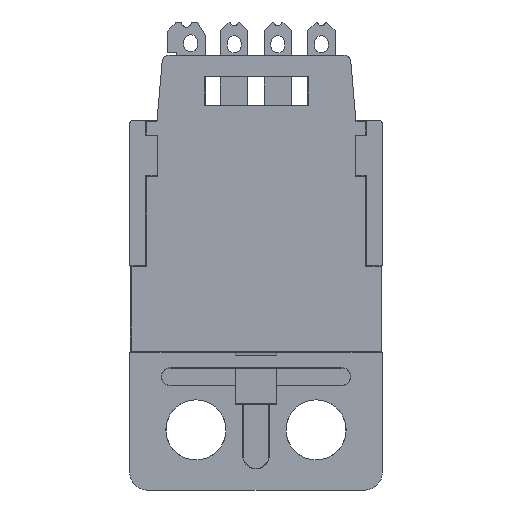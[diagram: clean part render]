
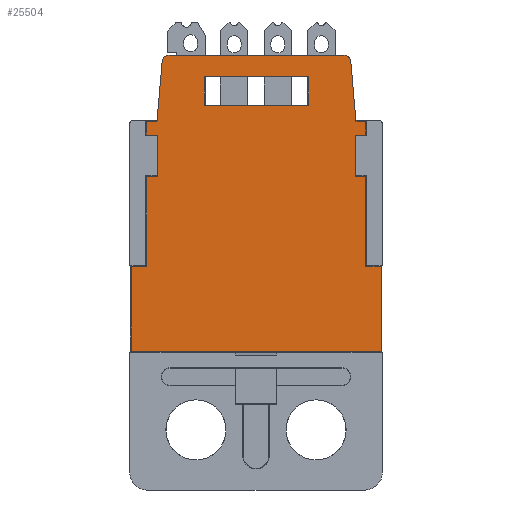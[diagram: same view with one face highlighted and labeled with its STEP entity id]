
A CAD part, front view. The second image highlights one B-rep face of the part: STEP entity #25504.
In plain terms, the highlighted planar face has unit normal (0, -1, 0).
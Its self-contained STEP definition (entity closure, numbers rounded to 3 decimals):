
#1346=FACE_BOUND('',#4163,.T.);
#1675=CIRCLE('',#26932,0.4);
#1676=CIRCLE('',#26933,0.4);
#2707=FACE_OUTER_BOUND('',#4162,.T.);
#4162=EDGE_LOOP('',(#20971,#20972,#20973,#20974,#20975,#20976,#20977,#20978,
#20979,#20980,#20981,#20982,#20983,#20984,#20985,#20986,#20987,#20988,#20989,
#20990,#20991,#20992));
#4163=EDGE_LOOP('',(#20993,#20994,#20995,#20996));
#6208=LINE('',#56299,#8870);
#6211=LINE('',#56305,#8873);
#6213=LINE('',#56310,#8875);
#6214=LINE('',#56312,#8876);
#6215=LINE('',#56314,#8877);
#6216=LINE('',#56316,#8878);
#6217=LINE('',#56318,#8879);
#6218=LINE('',#56320,#8880);
#6219=LINE('',#56324,#8881);
#6220=LINE('',#56328,#8882);
#6221=LINE('',#56330,#8883);
#6222=LINE('',#56332,#8884);
#6223=LINE('',#56334,#8885);
#6224=LINE('',#56336,#8886);
#6225=LINE('',#56338,#8887);
#6226=LINE('',#56340,#8888);
#6227=LINE('',#56341,#8889);
#6228=LINE('',#56343,#8890);
#6229=LINE('',#56345,#8891);
#6230=LINE('',#56346,#8892);
#6231=LINE('',#56349,#8893);
#6232=LINE('',#56351,#8894);
#6233=LINE('',#56353,#8895);
#6234=LINE('',#56354,#8896);
#8870=VECTOR('',#30916,14.564);
#8873=VECTOR('',#30921,4.94);
#8875=VECTOR('',#30925,0.605);
#8876=VECTOR('',#30926,2.37);
#8877=VECTOR('',#30927,0.605);
#8878=VECTOR('',#30928,0.81);
#8879=VECTOR('',#30929,0.555);
#8880=VECTOR('',#30930,3.498);
#8881=VECTOR('',#30933,10.193);
#8882=VECTOR('',#30936,3.498);
#8883=VECTOR('',#30937,0.61);
#8884=VECTOR('',#30938,0.795);
#8885=VECTOR('',#30939,0.66);
#8886=VECTOR('',#30940,2.425);
#8887=VECTOR('',#30941,0.65);
#8888=VECTOR('',#30942,5.23);
#8889=VECTOR('',#30943,0.882);
#8890=VECTOR('',#30944,4.94);
#8891=VECTOR('',#30945,0.927);
#8892=VECTOR('',#30946,5.27);
#8893=VECTOR('',#30947,1.65);
#8894=VECTOR('',#30948,6.1);
#8895=VECTOR('',#30949,1.65);
#8896=VECTOR('',#30950,6.1);
#11603=VERTEX_POINT('',#56292);
#11605=VERTEX_POINT('',#56297);
#11607=VERTEX_POINT('',#56304);
#11608=VERTEX_POINT('',#56308);
#11609=VERTEX_POINT('',#56309);
#11610=VERTEX_POINT('',#56311);
#11611=VERTEX_POINT('',#56313);
#11612=VERTEX_POINT('',#56315);
#11613=VERTEX_POINT('',#56317);
#11614=VERTEX_POINT('',#56319);
#11615=VERTEX_POINT('',#56321);
#11616=VERTEX_POINT('',#56323);
#11617=VERTEX_POINT('',#56325);
#11618=VERTEX_POINT('',#56327);
#11619=VERTEX_POINT('',#56329);
#11620=VERTEX_POINT('',#56331);
#11621=VERTEX_POINT('',#56333);
#11622=VERTEX_POINT('',#56335);
#11623=VERTEX_POINT('',#56337);
#11624=VERTEX_POINT('',#56339);
#11625=VERTEX_POINT('',#56342);
#11626=VERTEX_POINT('',#56344);
#11627=VERTEX_POINT('',#56347);
#11628=VERTEX_POINT('',#56348);
#11629=VERTEX_POINT('',#56350);
#11630=VERTEX_POINT('',#56352);
#14884=EDGE_CURVE('',#11605,#11603,#6208,.T.);
#14887=EDGE_CURVE('',#11607,#11603,#6211,.T.);
#14889=EDGE_CURVE('',#11608,#11609,#6213,.T.);
#14890=EDGE_CURVE('',#11609,#11610,#6214,.T.);
#14891=EDGE_CURVE('',#11611,#11610,#6215,.T.);
#14892=EDGE_CURVE('',#11611,#11612,#6216,.T.);
#14893=EDGE_CURVE('',#11612,#11613,#6217,.T.);
#14894=EDGE_CURVE('',#11613,#11614,#6218,.T.);
#14895=EDGE_CURVE('',#11614,#11615,#1675,.T.);
#14896=EDGE_CURVE('',#11615,#11616,#6219,.T.);
#14897=EDGE_CURVE('',#11616,#11617,#1676,.T.);
#14898=EDGE_CURVE('',#11617,#11618,#6220,.T.);
#14899=EDGE_CURVE('',#11618,#11619,#6221,.T.);
#14900=EDGE_CURVE('',#11620,#11619,#6222,.T.);
#14901=EDGE_CURVE('',#11621,#11620,#6223,.T.);
#14902=EDGE_CURVE('',#11621,#11622,#6224,.T.);
#14903=EDGE_CURVE('',#11622,#11623,#6225,.T.);
#14904=EDGE_CURVE('',#11623,#11624,#6226,.T.);
#14905=EDGE_CURVE('',#11624,#11607,#6227,.T.);
#14906=EDGE_CURVE('',#11605,#11625,#6228,.T.);
#14907=EDGE_CURVE('',#11625,#11626,#6229,.T.);
#14908=EDGE_CURVE('',#11626,#11608,#6230,.T.);
#14909=EDGE_CURVE('',#11627,#11628,#6231,.T.);
#14910=EDGE_CURVE('',#11628,#11629,#6232,.T.);
#14911=EDGE_CURVE('',#11629,#11630,#6233,.T.);
#14912=EDGE_CURVE('',#11630,#11627,#6234,.T.);
#20971=ORIENTED_EDGE('',*,*,#14889,.T.);
#20972=ORIENTED_EDGE('',*,*,#14890,.T.);
#20973=ORIENTED_EDGE('',*,*,#14891,.F.);
#20974=ORIENTED_EDGE('',*,*,#14892,.T.);
#20975=ORIENTED_EDGE('',*,*,#14893,.T.);
#20976=ORIENTED_EDGE('',*,*,#14894,.T.);
#20977=ORIENTED_EDGE('',*,*,#14895,.T.);
#20978=ORIENTED_EDGE('',*,*,#14896,.T.);
#20979=ORIENTED_EDGE('',*,*,#14897,.T.);
#20980=ORIENTED_EDGE('',*,*,#14898,.T.);
#20981=ORIENTED_EDGE('',*,*,#14899,.T.);
#20982=ORIENTED_EDGE('',*,*,#14900,.F.);
#20983=ORIENTED_EDGE('',*,*,#14901,.F.);
#20984=ORIENTED_EDGE('',*,*,#14902,.T.);
#20985=ORIENTED_EDGE('',*,*,#14903,.T.);
#20986=ORIENTED_EDGE('',*,*,#14904,.T.);
#20987=ORIENTED_EDGE('',*,*,#14905,.T.);
#20988=ORIENTED_EDGE('',*,*,#14887,.T.);
#20989=ORIENTED_EDGE('',*,*,#14884,.F.);
#20990=ORIENTED_EDGE('',*,*,#14906,.T.);
#20991=ORIENTED_EDGE('',*,*,#14907,.T.);
#20992=ORIENTED_EDGE('',*,*,#14908,.T.);
#20993=ORIENTED_EDGE('',*,*,#14909,.T.);
#20994=ORIENTED_EDGE('',*,*,#14910,.T.);
#20995=ORIENTED_EDGE('',*,*,#14911,.T.);
#20996=ORIENTED_EDGE('',*,*,#14912,.T.);
#24216=PLANE('',#26931);
#25504=ADVANCED_FACE('',(#2707,#1346),#24216,.F.);
#26931=AXIS2_PLACEMENT_3D('',#56307,#30923,#30924);
#26932=AXIS2_PLACEMENT_3D('',#56322,#30931,#30932);
#26933=AXIS2_PLACEMENT_3D('',#56326,#30934,#30935);
#30916=DIRECTION('',(-1.,0.,0.));
#30921=DIRECTION('',(0.,0.,-1.));
#30923=DIRECTION('center_axis',(0.,1.,0.));
#30924=DIRECTION('ref_axis',(0.,0.,1.));
#30925=DIRECTION('',(-1.,0.,0.));
#30926=DIRECTION('',(0.,0.,1.));
#30927=DIRECTION('',(-1.,0.,0.));
#30928=DIRECTION('',(0.,0.,1.));
#30929=DIRECTION('',(-1.,0.,0.));
#30930=DIRECTION('',(-0.087,0.,0.996));
#30931=DIRECTION('center_axis',(0.,-1.,0.));
#30932=DIRECTION('ref_axis',(0.996,0.,0.087));
#30933=DIRECTION('',(-1.,0.,0.));
#30934=DIRECTION('center_axis',(0.,-1.,0.));
#30935=DIRECTION('ref_axis',(0.,0.,1.));
#30936=DIRECTION('',(-0.087,0.,-0.996));
#30937=DIRECTION('',(-1.,0.,0.));
#30938=DIRECTION('',(0.,0.,1.));
#30939=DIRECTION('',(-1.,0.,0.));
#30940=DIRECTION('',(0.,0.,-1.));
#30941=DIRECTION('',(-1.,0.,0.));
#30942=DIRECTION('',(0.,0.,-1.));
#30943=DIRECTION('',(-1.,0.,0.));
#30944=DIRECTION('',(0.,0.,1.));
#30945=DIRECTION('',(-1.,0.,0.));
#30946=DIRECTION('',(0.,0.,1.));
#30947=DIRECTION('',(0.,0.,-1.));
#30948=DIRECTION('',(-1.,0.,0.));
#30949=DIRECTION('',(0.,0.,1.));
#30950=DIRECTION('',(1.,0.,0.));
#56292=CARTESIAN_POINT('',(-7.282,-12.45,-2.39));
#56297=CARTESIAN_POINT('',(7.282,-12.45,-2.39));
#56299=CARTESIAN_POINT('',(7.282,-12.45,-2.39));
#56304=CARTESIAN_POINT('',(-7.282,-12.45,2.55));
#56305=CARTESIAN_POINT('',(-7.282,-12.45,2.55));
#56307=CARTESIAN_POINT('Origin',(-0.3,-12.45,6.185));
#56308=CARTESIAN_POINT('',(6.355,-12.45,7.82));
#56309=CARTESIAN_POINT('',(5.75,-12.45,7.82));
#56310=CARTESIAN_POINT('',(6.355,-12.45,7.82));
#56311=CARTESIAN_POINT('',(5.75,-12.45,10.19));
#56312=CARTESIAN_POINT('',(5.75,-12.45,7.82));
#56313=CARTESIAN_POINT('',(6.355,-12.45,10.19));
#56314=CARTESIAN_POINT('',(6.355,-12.45,10.19));
#56315=CARTESIAN_POINT('',(6.355,-12.45,11.));
#56316=CARTESIAN_POINT('',(6.355,-12.45,10.19));
#56317=CARTESIAN_POINT('',(5.8,-12.45,11.));
#56318=CARTESIAN_POINT('',(6.355,-12.45,11.));
#56319=CARTESIAN_POINT('',(5.495,-12.45,14.485));
#56320=CARTESIAN_POINT('',(5.8,-12.45,11.));
#56321=CARTESIAN_POINT('',(5.097,-12.45,14.85));
#56322=CARTESIAN_POINT('Origin',(5.097,-12.45,14.45));
#56323=CARTESIAN_POINT('',(-5.097,-12.45,14.85));
#56324=CARTESIAN_POINT('',(5.097,-12.45,14.85));
#56325=CARTESIAN_POINT('',(-5.495,-12.45,14.485));
#56326=CARTESIAN_POINT('Origin',(-5.097,-12.45,14.45));
#56327=CARTESIAN_POINT('',(-5.8,-12.45,11.));
#56328=CARTESIAN_POINT('',(-5.495,-12.45,14.485));
#56329=CARTESIAN_POINT('',(-6.41,-12.45,11.));
#56330=CARTESIAN_POINT('',(-5.8,-12.45,11.));
#56331=CARTESIAN_POINT('',(-6.41,-12.45,10.205));
#56332=CARTESIAN_POINT('',(-6.41,-12.45,10.205));
#56333=CARTESIAN_POINT('',(-5.75,-12.45,10.205));
#56334=CARTESIAN_POINT('',(-5.75,-12.45,10.205));
#56335=CARTESIAN_POINT('',(-5.75,-12.45,7.78));
#56336=CARTESIAN_POINT('',(-5.75,-12.45,10.205));
#56337=CARTESIAN_POINT('',(-6.4,-12.45,7.78));
#56338=CARTESIAN_POINT('',(-5.75,-12.45,7.78));
#56339=CARTESIAN_POINT('',(-6.4,-12.45,2.55));
#56340=CARTESIAN_POINT('',(-6.4,-12.45,7.78));
#56341=CARTESIAN_POINT('',(-6.4,-12.45,2.55));
#56342=CARTESIAN_POINT('',(7.282,-12.45,2.55));
#56343=CARTESIAN_POINT('',(7.282,-12.45,-2.39));
#56344=CARTESIAN_POINT('',(6.355,-12.45,2.55));
#56345=CARTESIAN_POINT('',(7.282,-12.45,2.55));
#56346=CARTESIAN_POINT('',(6.355,-12.45,2.55));
#56347=CARTESIAN_POINT('',(3.05,-12.45,13.6));
#56348=CARTESIAN_POINT('',(3.05,-12.45,11.95));
#56349=CARTESIAN_POINT('',(3.05,-12.45,13.6));
#56350=CARTESIAN_POINT('',(-3.05,-12.45,11.95));
#56351=CARTESIAN_POINT('',(3.05,-12.45,11.95));
#56352=CARTESIAN_POINT('',(-3.05,-12.45,13.6));
#56353=CARTESIAN_POINT('',(-3.05,-12.45,11.95));
#56354=CARTESIAN_POINT('',(-3.05,-12.45,13.6));
